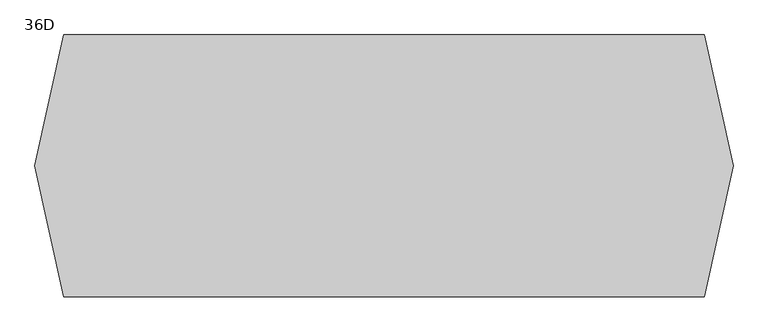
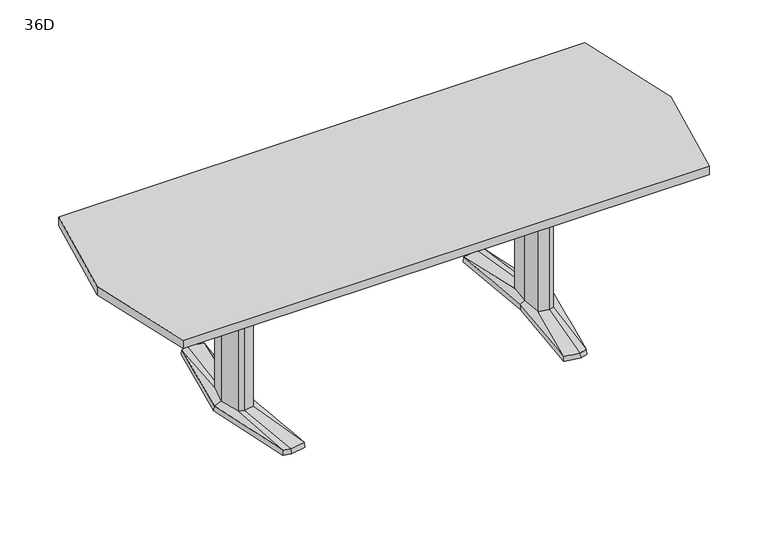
"""IFC4 building model written with IfcOpenShell, lengths in millimetres: furniture geometry, Coalesse_AM_Table_Conference_ETable2_Faceted_96in_AluminiumBase : 36D."""

from ifc_helpers import new_model, si_unit, frame, origin, place, context, project, spatial, polyline, outline, extrude, source, transform, mapped, element, save
from ifc_brep_helpers import plane_surface, spline_surface, advanced_brep


def furniture_36d_65bd826c(model_context):
    return source(origin(), model_context, "Body", "SolidModel", [
        advanced_brep(
        [(614.8503471, -379.3768856, 25.4), (644.5756636, -371.5332654, 25.4), (668.2327243, -89.293702, 36.5125), (648.9795254, -94.605478, 36.5125), (606.0521001, -87.0529327, 36.5125), (551.7612538, -368.5071562, 25.4), (597.9364207, 0.0, 36.5125), (579.8389754, 0.3970149, 25.4), (606.0521001, 87.0529327, 36.5125), (551.7615002, 368.5172593, 25.4), (648.9795254, 94.605478, 36.5125), (614.8502233, 379.3769183, 25.4), (668.2327243, 89.293702, 36.5125), (644.7535458, 371.4863276, 25.4), (692.1595251, 0.0, 36.5125), (721.4851663, 0.0003516, 25.4), (578.2468742, 0.3968871, 3.175), (550.06875, 369.8367279, 3.175), (614.9213004, 381.0, 3.175), (646.1093245, 372.7704151, 3.175), (723.10625, 0.0, 3.175), (645.9309817, -372.8174744, 3.175), (614.9213004, -381.0, 3.175), (550.06875, -369.8264415, 3.175), (649.5979264, 107.6121478, 3.175), (594.3065451, 97.8843184, 3.175), (585.1810887, 0.0, 3.175), (594.3065451, -97.8843184, 3.175), (649.5979264, -107.6121478, 3.175), (678.6183473, -99.6056872, 3.175), (705.3083085, 0.0, 3.175), (678.6183473, 99.6056872, 3.175), (613.4286812, 346.9152841, 3.175), (557.7811371, 337.3364985, 3.175), (560.1889918, 324.8641942, 3.175), (612.8600644, 333.9306305, 3.175), (648.6725609, 324.4807859, 3.175), (647.5544526, 337.9105158, 3.175), (613.4286812, -346.9152841, 3.175), (647.5544526, -337.9105158, 3.175), (648.6725609, -324.4807859, 3.175), (612.8600644, -333.9306305, 3.175), (560.1889918, -324.8641942, 3.175), (557.7811371, -337.3364985, 3.175), (649.5979264, 107.6121478, 0.0), (678.6183473, 99.6056872, 0.0), (705.3083085, 0.0, 0.0), (678.6183473, -99.6056872, 0.0), (649.5979264, -107.6121478, 0.0), (594.3065451, -97.8843184, 0.0), (585.1810887, 0.0, 0.0), (594.3065451, 97.8843184, 0.0), (613.4286812, 346.9152841, 0.0), (647.5544526, 337.9105158, 0.0), (648.6725609, 324.4807859, 0.0), (612.8600644, 333.9306305, 0.0), (560.1889918, 324.8641942, 0.0), (557.7811371, 337.3364985, 0.0), (613.4286812, -346.9152841, 0.0), (557.7811371, -337.3364985, 0.0), (560.1889918, -324.8641942, 0.0), (612.8600644, -333.9306305, 0.0), (648.6725609, -324.4807859, 0.0), (647.5544526, -337.9105158, 0.0), (668.2327243, 89.293702, 698.5), (648.9795254, 94.605478, 698.5), (606.0521001, 87.0529327, 698.5), (597.9364207, 0.0, 698.5), (606.0521001, -87.0529327, 698.5), (648.9795254, -94.605478, 698.5), (668.2327243, -89.293702, 698.5), (692.1595251, 0.0, 698.5)],
        [
            (0, 1),
            (1, 2),
            (2, 3),
            (3, 0),
            (3, 4),
            (4, 5),
            (5, 0),
            (4, 6),
            (6, 7),
            (7, 5),
            (6, 8),
            (8, 9),
            (9, 7),
            (8, 10),
            (10, 11),
            (11, 9),
            (10, 12),
            (12, 13),
            (13, 11),
            (12, 14),
            (14, 15),
            (15, 13),
            (1, 15),
            (14, 2),
            (16, 17),
            (17, 18),
            (18, 19),
            (19, 20),
            (20, 21),
            (21, 22),
            (22, 23),
            (23, 16),
            (24, 25),
            (25, 26),
            (26, 27),
            (27, 28),
            (28, 29),
            (29, 30),
            (30, 31),
            (31, 24),
            (32, 33),
            (33, 34),
            (34, 35),
            (35, 36),
            (36, 37),
            (37, 32),
            (38, 39),
            (39, 40),
            (40, 41),
            (41, 42),
            (42, 43),
            (43, 38),
            (16, 7),
            (9, 17),
            (11, 18),
            (13, 19),
            (15, 20),
            (1, 21),
            (0, 22),
            (5, 23),
            (44, 45),
            (45, 46),
            (46, 47),
            (47, 48),
            (48, 49),
            (49, 50),
            (50, 51),
            (51, 44),
            (52, 53),
            (53, 54),
            (54, 55),
            (55, 56),
            (56, 57),
            (57, 52),
            (58, 59),
            (59, 60),
            (60, 61),
            (61, 62),
            (62, 63),
            (63, 58),
            (44, 24),
            (31, 45),
            (30, 46),
            (29, 47),
            (28, 48),
            (27, 49),
            (26, 50),
            (25, 51),
            (52, 32),
            (37, 53),
            (36, 54),
            (35, 55),
            (34, 56),
            (33, 57),
            (58, 38),
            (43, 59),
            (42, 60),
            (41, 61),
            (40, 62),
            (39, 63),
            (64, 65),
            (65, 66),
            (66, 67),
            (67, 68),
            (68, 69),
            (69, 70),
            (70, 71),
            (71, 64),
            (71, 14),
            (12, 64),
            (70, 2),
            (69, 3),
            (68, 4),
            (67, 6),
            (66, 8),
            (65, 10),
        ],
        [
            spline_surface(1, 1, [[(644.5756636, -371.5332654, 25.4), (614.8503471, -379.3768856, 25.4)], [(668.2327243, -89.293702, 36.5125), (648.9795254, -94.605478, 36.5125)]], [2, 2], [2, 2], [0.0, 1.0], [0.0, 1.0]),
            spline_surface(1, 1, [[(614.8503471, -379.3768856, 25.4), (551.7612538, -368.5071562, 25.4)], [(648.9795254, -94.605478, 36.5125), (606.0521001, -87.0529327, 36.5125)]], [2, 2], [2, 2], [0.0, 1.0], [0.0, 1.0]),
            spline_surface(1, 1, [[(551.7612538, -368.5071562, 25.4), (579.8389754, 0.3970149, 25.4)], [(606.0521001, -87.0529327, 36.5125), (597.9364207, 0.0, 36.5125)]], [2, 2], [2, 2], [0.0, 1.0], [0.0, 1.0]),
            spline_surface(1, 1, [[(579.8389754, 0.3970149, 25.4), (551.7615002, 368.5172593, 25.4)], [(597.9364207, 0.0, 36.5125), (606.0521001, 87.0529327, 36.5125)]], [2, 2], [2, 2], [0.0, 1.0], [0.0, 1.0]),
            spline_surface(1, 1, [[(551.7615002, 368.5172593, 25.4), (614.8502233, 379.3769183, 25.4)], [(606.0521001, 87.0529327, 36.5125), (648.9795254, 94.605478, 36.5125)]], [2, 2], [2, 2], [0.0, 1.0], [0.0, 1.0]),
            spline_surface(1, 1, [[(614.8502233, 379.3769183, 25.4), (644.7535458, 371.4863276, 25.4)], [(648.9795254, 94.605478, 36.5125), (668.2327243, 89.293702, 36.5125)]], [2, 2], [2, 2], [0.0, 1.0], [0.0, 1.0]),
            spline_surface(1, 1, [[(644.7535458, 371.4863276, 25.4), (721.4851663, 0.0003516, 25.4)], [(668.2327243, 89.293702, 36.5125), (692.1595251, 0.0, 36.5125)]], [2, 2], [2, 2], [0.0, 1.0], [0.0, 1.0]),
            spline_surface(1, 1, [[(721.4851663, 0.0003516, 25.4), (644.5756636, -371.5332654, 25.4)], [(692.1595251, 0.0, 36.5125), (668.2327243, -89.293702, 36.5125)]], [2, 2], [2, 2], [0.0, 1.0], [0.0, 1.0]),
            plane_surface(frame((615.4216914, 0.0450143, 3.175), z_axis=(0.0, 0.0, -1.0), x_axis=(-0.9669048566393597, -0.2551372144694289, 0.0))),
            plane_surface(frame((564.1578121, 185.1168075, 3.175), z_axis=(-0.9945699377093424, -0.07585840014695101, 0.0712470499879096), x_axis=(-0.07605167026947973, 0.9971038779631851, 0.0))),
            plane_surface(frame((582.4950252, 375.418364, 3.175), z_axis=(-0.1692071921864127, 0.9830019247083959, 0.07124704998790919), x_axis=(0.985506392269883, 0.16963829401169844, 0.0))),
            plane_surface(frame((630.5153124, 376.8852076, 3.175), z_axis=(0.2544888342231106, 0.9644476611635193, 0.07124704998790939), x_axis=(0.9669048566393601, -0.25513721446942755, 0.0))),
            plane_surface(frame((684.6077872, 186.3852076, 3.175), z_axis=(0.9768383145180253, 0.2017690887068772, 0.07124704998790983), x_axis=(0.20228315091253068, -0.9793270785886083, 0.0))),
            plane_surface(frame((684.5186158, -186.4087372, 3.175), z_axis=(0.9767507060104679, -0.20219276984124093, 0.07124704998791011), x_axis=(-0.2027079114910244, -0.9792392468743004, 0.0))),
            plane_surface(frame((630.426141, -376.9087372, 3.175), z_axis=(0.2544888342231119, -0.9644476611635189, 0.0712470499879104), x_axis=(-0.9669048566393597, -0.2551372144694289, 0.0))),
            plane_surface(frame((582.4950252, -375.4132207, 3.175), z_axis=(-0.16935861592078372, -0.982975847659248, 0.07124704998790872), x_axis=(-0.9854802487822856, 0.16979010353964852, 0.0))),
            plane_surface(frame((564.1578121, -184.7147772, 3.175), z_axis=(-0.9945820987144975, 0.07569878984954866, 0.07124704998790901), x_axis=(0.07589165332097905, 0.9971160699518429, 0.0))),
            plane_surface(frame((652.3571479, 106.8509046, 0.0), z_axis=(0.0, 0.0, -1.0000000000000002), x_axis=(-0.9639855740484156, 0.26595453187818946, 0.0))),
            plane_surface(frame((649.5979264, 107.6121478, 3.175), z_axis=(0.26595453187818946, 0.9639855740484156, 0.0), x_axis=(0.0, 0.0, -1.0))),
            plane_surface(frame((678.6183473, 99.6056872, 3.175), z_axis=(0.9659241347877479, 0.2588253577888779, 0.0), x_axis=(0.0, 0.0, -1.0))),
            plane_surface(frame((705.3083085, 0.0, 3.175), z_axis=(0.9659241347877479, -0.2588253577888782, 0.0), x_axis=(0.0, 0.0, -1.0))),
            plane_surface(frame((678.6183473, -99.6056872, 3.175), z_axis=(0.26595453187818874, -0.9639855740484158, 0.0), x_axis=(0.0, 0.0, -1.0))),
            plane_surface(frame((649.5979264, -107.6121478, 3.175), z_axis=(-0.17327617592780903, -0.9848732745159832, 0.0), x_axis=(0.0, 0.0, -1.0))),
            plane_surface(frame((594.3065451, -97.8843184, 3.175), z_axis=(-0.9956824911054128, -0.0928244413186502, 0.0), x_axis=(0.0, 0.0, -1.0))),
            plane_surface(frame((585.1810887, 0.0, 3.175), z_axis=(-0.9956824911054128, 0.09282444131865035, 0.0), x_axis=(0.0, 0.0, -1.0))),
            plane_surface(frame((594.3065451, 97.8843184, 3.175), z_axis=(-0.17327617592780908, 0.984873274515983, 0.0), x_axis=(0.0, 0.0, -1.0))),
            plane_surface(frame((613.4286812, 346.9152841, 3.175), z_axis=(0.25513721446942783, 0.9669048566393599, 0.0), x_axis=(0.0, 0.0, -1.0))),
            plane_surface(frame((647.5544526, 337.9105158, 3.175), z_axis=(0.9965521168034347, 0.0829691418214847, 0.0), x_axis=(0.0, 0.0, -1.0))),
            plane_surface(frame((648.6725609, 324.4807859, 3.175), z_axis=(-0.25513721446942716, -0.9669048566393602, 0.0), x_axis=(0.0, 0.0, -1.0))),
            plane_surface(frame((612.8600644, 333.9306305, 3.175), z_axis=(0.16963829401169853, -0.985506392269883, 0.0), x_axis=(0.0, 0.0, -1.0))),
            plane_surface(frame((560.1889918, 324.8641942, 3.175), z_axis=(-0.9818699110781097, -0.18955600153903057, 0.0), x_axis=(0.0, 0.0, -1.0))),
            plane_surface(frame((557.7811371, 337.3364985, 3.175), z_axis=(-0.16963829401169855, 0.9855063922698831, 0.0), x_axis=(0.0, 0.0, -1.0))),
            plane_surface(frame((613.4286812, -346.9152841, 3.175), z_axis=(-0.1696382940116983, -0.9855063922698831, 0.0), x_axis=(0.0, 0.0, -1.0))),
            plane_surface(frame((557.7811371, -337.3364985, 3.175), z_axis=(-0.9818699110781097, 0.18955600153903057, 0.0), x_axis=(0.0, 0.0, -1.0))),
            plane_surface(frame((560.1889918, -324.8641942, 3.175), z_axis=(0.16963829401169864, 0.985506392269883, 0.0), x_axis=(0.0, 0.0, -1.0))),
            plane_surface(frame((612.8600644, -333.9306305, 3.175), z_axis=(-0.2551372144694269, 0.9669048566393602, 0.0), x_axis=(0.0, 0.0, -1.0))),
            plane_surface(frame((648.6725609, -324.4807859, 3.175), z_axis=(0.9965521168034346, -0.0829691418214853, 0.0), x_axis=(0.0, 0.0, -1.0))),
            plane_surface(frame((647.5544526, -337.9105158, 3.175), z_axis=(0.2551372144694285, -0.9669048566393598, 0.0), x_axis=(0.0, 0.0, -1.0))),
            plane_surface(frame((692.1595251, 0.0, 698.5), z_axis=(0.0, 0.0, 1.0), x_axis=(0.25882535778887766, -0.965924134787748, 0.0))),
            plane_surface(frame((668.2327243, 89.293702, 698.5), z_axis=(0.965924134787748, 0.25882535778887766, 0.0), x_axis=(0.0, 0.0, -1.0))),
            plane_surface(frame((692.1595251, 0.0, 698.5), z_axis=(0.965924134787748, -0.2588253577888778, 0.0), x_axis=(0.0, 0.0, -1.0))),
            plane_surface(frame((668.2327243, -89.293702, 698.5), z_axis=(0.2659545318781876, -0.963985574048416, 0.0), x_axis=(0.0, 0.0, -1.0))),
            plane_surface(frame((648.9795254, -94.605478, 698.5), z_axis=(-0.1732761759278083, -0.9848732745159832, 0.0), x_axis=(0.0, 0.0, -1.0))),
            plane_surface(frame((606.0521001, -87.0529327, 698.5), z_axis=(-0.9956824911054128, -0.0928244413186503, 0.0), x_axis=(0.0, 0.0, -1.0))),
            plane_surface(frame((597.9364207, 0.0, 698.5), z_axis=(-0.9956824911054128, 0.09282444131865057, 0.0), x_axis=(0.0, 0.0, -1.0))),
            plane_surface(frame((606.0521001, 87.0529327, 698.5), z_axis=(-0.17327617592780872, 0.9848732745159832, 0.0), x_axis=(0.0, 0.0, -1.0))),
            plane_surface(frame((648.9795254, 94.605478, 698.5), z_axis=(0.26595453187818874, 0.9639855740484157, 0.0), x_axis=(0.0, 0.0, -1.0))),
        ],
        [
            (0, [[1, 2, 3, 4]]),
            (1, [[5, 6, 7, -4]]),
            (2, [[8, 9, 10, -6]]),
            (3, [[11, 12, 13, -9]]),
            (4, [[14, 15, 16, -12]]),
            (5, [[17, 18, 19, -15]]),
            (6, [[20, 21, 22, -18]]),
            (7, [[23, -21, 24, -2]]),
            (8, [[25, 26, 27, 28, 29, 30, 31, 32], [33, 34, 35, 36, 37, 38, 39, 40], [41, 42, 43, 44, 45, 46], [47, 48, 49, 50, 51, 52]]),
            (9, [[53, -13, 54, -25]]),
            (10, [[-54, -16, 55, -26]]),
            (11, [[-55, -19, 56, -27]]),
            (12, [[-56, -22, 57, -28]]),
            (13, [[-57, -23, 58, -29]]),
            (14, [[-58, -1, 59, -30]]),
            (15, [[-59, -7, 60, -31]]),
            (16, [[-60, -10, -53, -32]]),
            (17, [[61, 62, 63, 64, 65, 66, 67, 68]]),
            (17, [[69, 70, 71, 72, 73, 74]]),
            (17, [[75, 76, 77, 78, 79, 80]]),
            (18, [[81, -40, 82, -61]]),
            (19, [[-82, -39, 83, -62]]),
            (20, [[-83, -38, 84, -63]]),
            (21, [[-84, -37, 85, -64]]),
            (22, [[-85, -36, 86, -65]]),
            (23, [[-86, -35, 87, -66]]),
            (24, [[-87, -34, 88, -67]]),
            (25, [[-88, -33, -81, -68]]),
            (26, [[89, -46, 90, -69]]),
            (27, [[-90, -45, 91, -70]]),
            (28, [[-91, -44, 92, -71]]),
            (29, [[-92, -43, 93, -72]]),
            (30, [[-93, -42, 94, -73]]),
            (31, [[-94, -41, -89, -74]]),
            (32, [[95, -52, 96, -75]]),
            (33, [[-96, -51, 97, -76]]),
            (34, [[-97, -50, 98, -77]]),
            (35, [[-98, -49, 99, -78]]),
            (36, [[-99, -48, 100, -79]]),
            (37, [[-100, -47, -95, -80]]),
            (38, [[101, 102, 103, 104, 105, 106, 107, 108]]),
            (39, [[109, -20, 110, -108]]),
            (40, [[111, -24, -109, -107]]),
            (41, [[112, -3, -111, -106]]),
            (42, [[113, -5, -112, -105]]),
            (43, [[114, -8, -113, -104]]),
            (44, [[115, -11, -114, -103]]),
            (45, [[116, -14, -115, -102]]),
            (46, [[-110, -17, -116, -101]]),
        ],
    ),
        advanced_brep(
        [(-614.8503471, -379.3768856, 25.4), (-648.9795254, -94.605478, 36.5125), (-668.2327243, -89.293702, 36.5125), (-644.5756636, -371.5332654, 25.4), (-551.7612538, -368.5071562, 25.4), (-606.0521001, -87.0529327, 36.5125), (-579.8389754, 0.3970149, 25.4), (-597.9364207, 0.0, 36.5125), (-551.7615002, 368.5172593, 25.4), (-606.0521001, 87.0529327, 36.5125), (-614.8502233, 379.3769183, 25.4), (-648.9795254, 94.605478, 36.5125), (-644.7535458, 371.4863276, 25.4), (-668.2327243, 89.293702, 36.5125), (-721.4851663, 0.0003516, 25.4), (-692.1595251, 0.0, 36.5125), (-578.2468742, 0.3968871, 3.175), (-550.06875, -369.8264415, 3.175), (-614.9213004, -381.0, 3.175), (-645.9309817, -372.8174744, 3.175), (-723.10625, 0.0, 3.175), (-646.1093245, 372.7704151, 3.175), (-614.9213004, 381.0, 3.175), (-550.06875, 369.8367279, 3.175), (-649.5979264, 107.6121478, 3.175), (-678.6183473, 99.6056872, 3.175), (-705.3083085, 0.0, 3.175), (-678.6183473, -99.6056872, 3.175), (-649.5979264, -107.6121478, 3.175), (-594.3065451, -97.8843184, 3.175), (-585.1810887, 0.0, 3.175), (-594.3065451, 97.8843184, 3.175), (-613.4286812, 346.9152841, 3.175), (-647.5544526, 337.9105158, 3.175), (-648.6725609, 324.4807859, 3.175), (-612.8600644, 333.9306305, 3.175), (-560.1889918, 324.8641942, 3.175), (-557.7811371, 337.3364985, 3.175), (-613.4286812, -346.9152841, 3.175), (-557.7811371, -337.3364985, 3.175), (-560.1889918, -324.8641942, 3.175), (-612.8600644, -333.9306305, 3.175), (-648.6725609, -324.4807859, 3.175), (-647.5544526, -337.9105158, 3.175), (-649.5979264, 107.6121478, 0.0), (-594.3065451, 97.8843184, 0.0), (-585.1810887, 0.0, 0.0), (-594.3065451, -97.8843184, 0.0), (-649.5979264, -107.6121478, 0.0), (-678.6183473, -99.6056872, 0.0), (-705.3083085, 0.0, 0.0), (-678.6183473, 99.6056872, 0.0), (-613.4286812, 346.9152841, 0.0), (-557.7811371, 337.3364985, 0.0), (-560.1889918, 324.8641942, 0.0), (-612.8600644, 333.9306305, 0.0), (-648.6725609, 324.4807859, 0.0), (-647.5544526, 337.9105158, 0.0), (-613.4286812, -346.9152841, 0.0), (-647.5544526, -337.9105158, 0.0), (-648.6725609, -324.4807859, 0.0), (-612.8600644, -333.9306305, 0.0), (-560.1889918, -324.8641942, 0.0), (-557.7811371, -337.3364985, 0.0), (-668.2327243, 89.293702, 698.5), (-692.1595251, 0.0, 698.5), (-668.2327243, -89.293702, 698.5), (-648.9795254, -94.605478, 698.5), (-606.0521001, -87.0529327, 698.5), (-597.9364207, 0.0, 698.5), (-606.0521001, 87.0529327, 698.5), (-648.9795254, 94.605478, 698.5)],
        [
            (0, 1),
            (1, 2),
            (2, 3),
            (3, 0),
            (0, 4),
            (4, 5),
            (5, 1),
            (4, 6),
            (6, 7),
            (7, 5),
            (6, 8),
            (8, 9),
            (9, 7),
            (8, 10),
            (10, 11),
            (11, 9),
            (10, 12),
            (12, 13),
            (13, 11),
            (12, 14),
            (14, 15),
            (15, 13),
            (2, 15),
            (14, 3),
            (16, 17),
            (17, 18),
            (18, 19),
            (19, 20),
            (20, 21),
            (21, 22),
            (22, 23),
            (23, 16),
            (24, 25),
            (25, 26),
            (26, 27),
            (27, 28),
            (28, 29),
            (29, 30),
            (30, 31),
            (31, 24),
            (32, 33),
            (33, 34),
            (34, 35),
            (35, 36),
            (36, 37),
            (37, 32),
            (38, 39),
            (39, 40),
            (40, 41),
            (41, 42),
            (42, 43),
            (43, 38),
            (23, 8),
            (6, 16),
            (22, 10),
            (21, 12),
            (20, 14),
            (19, 3),
            (18, 0),
            (17, 4),
            (44, 45),
            (45, 46),
            (46, 47),
            (47, 48),
            (48, 49),
            (49, 50),
            (50, 51),
            (51, 44),
            (52, 53),
            (53, 54),
            (54, 55),
            (55, 56),
            (56, 57),
            (57, 52),
            (58, 59),
            (59, 60),
            (60, 61),
            (61, 62),
            (62, 63),
            (63, 58),
            (51, 25),
            (24, 44),
            (50, 26),
            (49, 27),
            (48, 28),
            (47, 29),
            (46, 30),
            (45, 31),
            (57, 33),
            (32, 52),
            (56, 34),
            (55, 35),
            (54, 36),
            (53, 37),
            (63, 39),
            (38, 58),
            (62, 40),
            (61, 41),
            (60, 42),
            (59, 43),
            (64, 65),
            (65, 66),
            (66, 67),
            (67, 68),
            (68, 69),
            (69, 70),
            (70, 71),
            (71, 64),
            (64, 13),
            (15, 65),
            (2, 66),
            (1, 67),
            (5, 68),
            (7, 69),
            (9, 70),
            (11, 71),
        ],
        [
            spline_surface(1, 1, [[(-644.5756636, -371.5332654, 25.4), (-668.2327243, -89.293702, 36.5125)], [(-614.8503471, -379.3768856, 25.4), (-648.9795254, -94.605478, 36.5125)]], [2, 2], [2, 2], [0.0, 1.0], [0.0, 1.0]),
            spline_surface(1, 1, [[(-614.8503471, -379.3768856, 25.4), (-648.9795254, -94.605478, 36.5125)], [(-551.7612538, -368.5071562, 25.4), (-606.0521001, -87.0529327, 36.5125)]], [2, 2], [2, 2], [0.0, 1.0], [0.0, 1.0]),
            spline_surface(1, 1, [[(-551.7612538, -368.5071562, 25.4), (-606.0521001, -87.0529327, 36.5125)], [(-579.8389754, 0.3970149, 25.4), (-597.9364207, 0.0, 36.5125)]], [2, 2], [2, 2], [0.0, 1.0], [0.0, 1.0]),
            spline_surface(1, 1, [[(-579.8389754, 0.3970149, 25.4), (-597.9364207, 0.0, 36.5125)], [(-551.7615002, 368.5172593, 25.4), (-606.0521001, 87.0529327, 36.5125)]], [2, 2], [2, 2], [0.0, 1.0], [0.0, 1.0]),
            spline_surface(1, 1, [[(-551.7615002, 368.5172593, 25.4), (-606.0521001, 87.0529327, 36.5125)], [(-614.8502233, 379.3769183, 25.4), (-648.9795254, 94.605478, 36.5125)]], [2, 2], [2, 2], [0.0, 1.0], [0.0, 1.0]),
            spline_surface(1, 1, [[(-614.8502233, 379.3769183, 25.4), (-648.9795254, 94.605478, 36.5125)], [(-644.7535458, 371.4863276, 25.4), (-668.2327243, 89.293702, 36.5125)]], [2, 2], [2, 2], [0.0, 1.0], [0.0, 1.0]),
            spline_surface(1, 1, [[(-644.7535458, 371.4863276, 25.4), (-668.2327243, 89.293702, 36.5125)], [(-721.4851663, 0.0003516, 25.4), (-692.1595251, 0.0, 36.5125)]], [2, 2], [2, 2], [0.0, 1.0], [0.0, 1.0]),
            spline_surface(1, 1, [[(-721.4851663, 0.0003516, 25.4), (-692.1595251, 0.0, 36.5125)], [(-644.5756636, -371.5332654, 25.4), (-668.2327243, -89.293702, 36.5125)]], [2, 2], [2, 2], [0.0, 1.0], [0.0, 1.0]),
            plane_surface(frame((-615.4216914, 0.0450143, 3.175), z_axis=(0.0, 0.0, -1.0), x_axis=(0.9669048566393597, -0.2551372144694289, 0.0))),
            plane_surface(frame((-564.1578121, 185.1168075, 3.175), z_axis=(0.9945699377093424, -0.07585840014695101, 0.0712470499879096), x_axis=(0.07605167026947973, 0.9971038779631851, 0.0))),
            plane_surface(frame((-582.4950252, 375.418364, 3.175), z_axis=(0.1692071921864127, 0.9830019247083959, 0.07124704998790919), x_axis=(-0.985506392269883, 0.16963829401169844, 0.0))),
            plane_surface(frame((-630.5153124, 376.8852076, 3.175), z_axis=(-0.2544888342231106, 0.9644476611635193, 0.07124704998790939), x_axis=(-0.9669048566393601, -0.25513721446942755, 0.0))),
            plane_surface(frame((-684.6077872, 186.3852076, 3.175), z_axis=(-0.9768383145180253, 0.2017690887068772, 0.07124704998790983), x_axis=(-0.20228315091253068, -0.9793270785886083, 0.0))),
            plane_surface(frame((-684.5186158, -186.4087372, 3.175), z_axis=(-0.9767507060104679, -0.20219276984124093, 0.07124704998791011), x_axis=(0.2027079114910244, -0.9792392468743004, 0.0))),
            plane_surface(frame((-630.426141, -376.9087372, 3.175), z_axis=(-0.2544888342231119, -0.9644476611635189, 0.0712470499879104), x_axis=(0.9669048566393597, -0.2551372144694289, 0.0))),
            plane_surface(frame((-582.4950252, -375.4132207, 3.175), z_axis=(0.16935861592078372, -0.982975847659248, 0.07124704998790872), x_axis=(0.9854802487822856, 0.16979010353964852, 0.0))),
            plane_surface(frame((-564.1578121, -184.7147772, 3.175), z_axis=(0.9945820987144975, 0.07569878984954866, 0.07124704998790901), x_axis=(-0.07589165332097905, 0.9971160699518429, 0.0))),
            plane_surface(frame((-652.3571479, 106.8509046, 0.0), z_axis=(0.0, 0.0, -1.0000000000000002), x_axis=(0.9639855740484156, 0.26595453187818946, 0.0))),
            plane_surface(frame((-649.5979264, 107.6121478, 3.175), z_axis=(-0.26595453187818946, 0.9639855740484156, 0.0), x_axis=(0.0, 0.0, -1.0))),
            plane_surface(frame((-678.6183473, 99.6056872, 3.175), z_axis=(-0.9659241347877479, 0.2588253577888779, 0.0), x_axis=(0.0, 0.0, -1.0))),
            plane_surface(frame((-705.3083085, 0.0, 3.175), z_axis=(-0.9659241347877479, -0.2588253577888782, 0.0), x_axis=(0.0, 0.0, -1.0))),
            plane_surface(frame((-678.6183473, -99.6056872, 3.175), z_axis=(-0.26595453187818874, -0.9639855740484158, 0.0), x_axis=(0.0, 0.0, -1.0))),
            plane_surface(frame((-649.5979264, -107.6121478, 3.175), z_axis=(0.17327617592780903, -0.9848732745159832, 0.0), x_axis=(0.0, 0.0, -1.0))),
            plane_surface(frame((-594.3065451, -97.8843184, 3.175), z_axis=(0.9956824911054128, -0.0928244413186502, 0.0), x_axis=(0.0, 0.0, -1.0))),
            plane_surface(frame((-585.1810887, 0.0, 3.175), z_axis=(0.9956824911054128, 0.09282444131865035, 0.0), x_axis=(0.0, 0.0, -1.0))),
            plane_surface(frame((-594.3065451, 97.8843184, 3.175), z_axis=(0.17327617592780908, 0.984873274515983, 0.0), x_axis=(0.0, 0.0, -1.0))),
            plane_surface(frame((-613.4286812, 346.9152841, 3.175), z_axis=(-0.25513721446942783, 0.9669048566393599, 0.0), x_axis=(0.0, 0.0, -1.0))),
            plane_surface(frame((-647.5544526, 337.9105158, 3.175), z_axis=(-0.9965521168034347, 0.0829691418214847, 0.0), x_axis=(0.0, 0.0, -1.0))),
            plane_surface(frame((-648.6725609, 324.4807859, 3.175), z_axis=(0.25513721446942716, -0.9669048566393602, 0.0), x_axis=(0.0, 0.0, -1.0))),
            plane_surface(frame((-612.8600644, 333.9306305, 3.175), z_axis=(-0.16963829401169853, -0.985506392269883, 0.0), x_axis=(0.0, 0.0, -1.0))),
            plane_surface(frame((-560.1889918, 324.8641942, 3.175), z_axis=(0.9818699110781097, -0.18955600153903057, 0.0), x_axis=(0.0, 0.0, -1.0))),
            plane_surface(frame((-557.7811371, 337.3364985, 3.175), z_axis=(0.16963829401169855, 0.9855063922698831, 0.0), x_axis=(0.0, 0.0, -1.0))),
            plane_surface(frame((-613.4286812, -346.9152841, 3.175), z_axis=(0.1696382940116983, -0.9855063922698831, 0.0), x_axis=(0.0, 0.0, -1.0))),
            plane_surface(frame((-557.7811371, -337.3364985, 3.175), z_axis=(0.9818699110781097, 0.18955600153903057, 0.0), x_axis=(0.0, 0.0, -1.0))),
            plane_surface(frame((-560.1889918, -324.8641942, 3.175), z_axis=(-0.16963829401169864, 0.985506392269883, 0.0), x_axis=(0.0, 0.0, -1.0))),
            plane_surface(frame((-612.8600644, -333.9306305, 3.175), z_axis=(0.2551372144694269, 0.9669048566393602, 0.0), x_axis=(0.0, 0.0, -1.0))),
            plane_surface(frame((-648.6725609, -324.4807859, 3.175), z_axis=(-0.9965521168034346, -0.0829691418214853, 0.0), x_axis=(0.0, 0.0, -1.0))),
            plane_surface(frame((-647.5544526, -337.9105158, 3.175), z_axis=(-0.2551372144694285, -0.9669048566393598, 0.0), x_axis=(0.0, 0.0, -1.0))),
            plane_surface(frame((-692.1595251, 0.0, 698.5), z_axis=(0.0, 0.0, 1.0), x_axis=(-0.25882535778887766, -0.965924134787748, 0.0))),
            plane_surface(frame((-668.2327243, 89.293702, 698.5), z_axis=(-0.965924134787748, 0.25882535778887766, 0.0), x_axis=(0.0, 0.0, -1.0))),
            plane_surface(frame((-692.1595251, 0.0, 698.5), z_axis=(-0.965924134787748, -0.2588253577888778, 0.0), x_axis=(0.0, 0.0, -1.0))),
            plane_surface(frame((-668.2327243, -89.293702, 698.5), z_axis=(-0.2659545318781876, -0.963985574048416, 0.0), x_axis=(0.0, 0.0, -1.0))),
            plane_surface(frame((-648.9795254, -94.605478, 698.5), z_axis=(0.1732761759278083, -0.9848732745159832, 0.0), x_axis=(0.0, 0.0, -1.0))),
            plane_surface(frame((-606.0521001, -87.0529327, 698.5), z_axis=(0.9956824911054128, -0.0928244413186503, 0.0), x_axis=(0.0, 0.0, -1.0))),
            plane_surface(frame((-597.9364207, 0.0, 698.5), z_axis=(0.9956824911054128, 0.09282444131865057, 0.0), x_axis=(0.0, 0.0, -1.0))),
            plane_surface(frame((-606.0521001, 87.0529327, 698.5), z_axis=(0.17327617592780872, 0.9848732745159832, 0.0), x_axis=(0.0, 0.0, -1.0))),
            plane_surface(frame((-648.9795254, 94.605478, 698.5), z_axis=(-0.26595453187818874, 0.9639855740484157, 0.0), x_axis=(0.0, 0.0, -1.0))),
        ],
        [
            (0, [[1, 2, 3, 4]]),
            (1, [[-1, 5, 6, 7]]),
            (2, [[-6, 8, 9, 10]]),
            (3, [[-9, 11, 12, 13]]),
            (4, [[-12, 14, 15, 16]]),
            (5, [[-15, 17, 18, 19]]),
            (6, [[-18, 20, 21, 22]]),
            (7, [[-3, 23, -21, 24]]),
            (8, [[25, 26, 27, 28, 29, 30, 31, 32], [33, 34, 35, 36, 37, 38, 39, 40], [41, 42, 43, 44, 45, 46], [47, 48, 49, 50, 51, 52]]),
            (9, [[-32, 53, -11, 54]]),
            (10, [[-31, 55, -14, -53]]),
            (11, [[-30, 56, -17, -55]]),
            (12, [[-29, 57, -20, -56]]),
            (13, [[-28, 58, -24, -57]]),
            (14, [[-27, 59, -4, -58]]),
            (15, [[-26, 60, -5, -59]]),
            (16, [[-25, -54, -8, -60]]),
            (17, [[61, 62, 63, 64, 65, 66, 67, 68]]),
            (17, [[69, 70, 71, 72, 73, 74]]),
            (17, [[75, 76, 77, 78, 79, 80]]),
            (18, [[-68, 81, -33, 82]]),
            (19, [[-67, 83, -34, -81]]),
            (20, [[-66, 84, -35, -83]]),
            (21, [[-65, 85, -36, -84]]),
            (22, [[-64, 86, -37, -85]]),
            (23, [[-63, 87, -38, -86]]),
            (24, [[-62, 88, -39, -87]]),
            (25, [[-61, -82, -40, -88]]),
            (26, [[-74, 89, -41, 90]]),
            (27, [[-73, 91, -42, -89]]),
            (28, [[-72, 92, -43, -91]]),
            (29, [[-71, 93, -44, -92]]),
            (30, [[-70, 94, -45, -93]]),
            (31, [[-69, -90, -46, -94]]),
            (32, [[-80, 95, -47, 96]]),
            (33, [[-79, 97, -48, -95]]),
            (34, [[-78, 98, -49, -97]]),
            (35, [[-77, 99, -50, -98]]),
            (36, [[-76, 100, -51, -99]]),
            (37, [[-75, -96, -52, -100]]),
            (38, [[101, 102, 103, 104, 105, 106, 107, 108]]),
            (39, [[-101, 109, -22, 110]]),
            (40, [[-102, -110, -23, 111]]),
            (41, [[-103, -111, -2, 112]]),
            (42, [[-104, -112, -7, 113]]),
            (43, [[-105, -113, -10, 114]]),
            (44, [[-106, -114, -13, 115]]),
            (45, [[-107, -115, -16, 116]]),
            (46, [[-108, -116, -19, -109]]),
        ],
    ),
        extrude(outline(polyline([(96.8375, 698.5), (103.1875, 698.5), (103.1875, 476.25), (-103.1875, 476.25), (-103.1875, 698.5), (-96.8375, 698.5), (-96.8375, 482.6), (96.8375, 482.6), (96.8375, 698.5)])), frame((-597.9364207, 0.0, 0.0), z_axis=(1.0, 0.0, 0.0), x_axis=(0.0, 1.0, 0.0)), (0.0, 0.0, 1.0), 1195.8728415),
        extrude(outline(polyline([(1117.8406345, 457.2), (1219.2, 0.0), (1117.8406345, -457.2), (-1117.8406345, -457.2), (-1219.2, 0.0), (-1117.8406345, 457.2), (1117.8406345, 457.2)])), frame((0.0, 0.0, 698.5), z_axis=(0.0, 0.0, 1.0), x_axis=(1.0, 0.0, 0.0)), (0.0, 0.0, 1.0), 38.1),
    ])


if __name__ == "__main__":
    model = new_model("IFC4")
    model_context = context("Model", 3, world=origin())
    ifc_project = project(units=[si_unit("LENGTHUNIT", "METRE", prefix="MILLI")], contexts=[model_context])
    site = spatial("IfcSite", under=ifc_project)
    building = spatial("IfcBuilding", under=site)
    placement = place(None, origin())
    furniture_36d_shape = furniture_36d_65bd826c(model_context)
    element("IfcFurniture", 1, ObjectType="Coalesse_AM_Table_Conference_ETable2_Faceted_96in_AluminiumBase : 36D", at=placement, inside=building, context=model_context, shape_type="MappedRepresentation", body=[
        mapped(furniture_36d_shape, transform((0.0, 0.0, 0.0), x_axis=(1.0, 0.0, 0.0), y_axis=(0.0, 1.0, 0.0), z_axis=(0.0, 0.0, 1.0))),
    ])
    save(model, "model.ifc")
